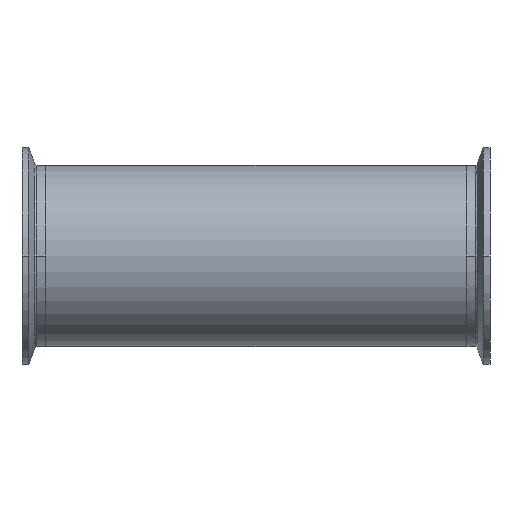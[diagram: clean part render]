
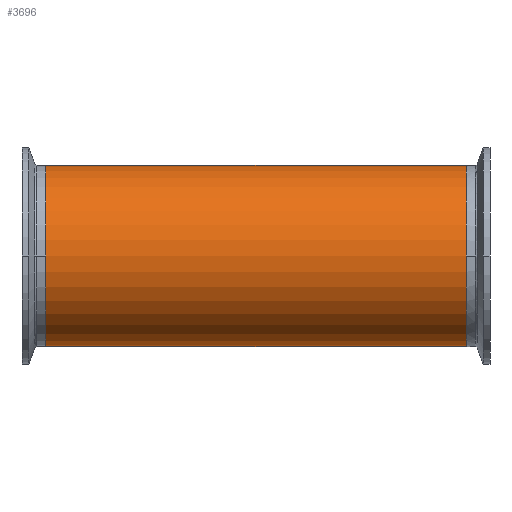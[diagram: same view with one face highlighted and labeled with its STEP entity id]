
A CAD part, front view. The second image highlights one B-rep face of the part: STEP entity #3696.
In plain terms, the highlighted cylindrical face has radius 38.1 mm (diameter 76.2 mm), a partial arc.
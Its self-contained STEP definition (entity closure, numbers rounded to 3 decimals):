
#66 = CIRCLE ( 'NONE', #2106, 38.1 ) ;
#154 = CARTESIAN_POINT ( 'NONE',  ( 196.163, 0., 38.1 ) ) ;
#159 = EDGE_CURVE ( 'NONE', #1480, #3389, #4011, .T. ) ;
#268 = DIRECTION ( 'NONE',  ( 0., 0., 1. ) ) ;
#299 = AXIS2_PLACEMENT_3D ( 'NONE', #1554, #3231, #2902 ) ;
#300 = LINE ( 'NONE', #154, #3678 ) ;
#370 = CYLINDRICAL_SURFACE ( 'NONE', #299, 38.1 ) ;
#473 = EDGE_CURVE ( 'NONE', #2596, #3389, #3748, .T. ) ;
#595 = CARTESIAN_POINT ( 'NONE',  ( -88.4, 0., 0. ) ) ;
#809 = VERTEX_POINT ( 'NONE', #1000 ) ;
#1000 = CARTESIAN_POINT ( 'NONE',  ( 88.4, 0., 38.1 ) ) ;
#1226 = ORIENTED_EDGE ( 'NONE', *, *, #2636, .T. ) ;
#1359 = ORIENTED_EDGE ( 'NONE', *, *, #473, .F. ) ;
#1480 = VERTEX_POINT ( 'NONE', #1669 ) ;
#1554 = CARTESIAN_POINT ( 'NONE',  ( 196.163, 0., 0. ) ) ;
#1592 = DIRECTION ( 'NONE',  ( -1., 0., 0. ) ) ;
#1669 = CARTESIAN_POINT ( 'NONE',  ( -88.4, 0., 38.1 ) ) ;
#1864 = VECTOR ( 'NONE', #3189, 1000. ) ;
#1903 = AXIS2_PLACEMENT_3D ( 'NONE', #595, #2542, #268 ) ;
#2075 = DIRECTION ( 'NONE',  ( -1., 0., 0. ) ) ;
#2106 = AXIS2_PLACEMENT_3D ( 'NONE', #3563, #1592, #3928 ) ;
#2374 = CARTESIAN_POINT ( 'NONE',  ( 88.4, 0., -38.1 ) ) ;
#2542 = DIRECTION ( 'NONE',  ( 1., 0., 0. ) ) ;
#2546 = CARTESIAN_POINT ( 'NONE',  ( -88.4, 0., -38.1 ) ) ;
#2596 = VERTEX_POINT ( 'NONE', #2374 ) ;
#2636 = EDGE_CURVE ( 'NONE', #2596, #809, #66, .T. ) ;
#2902 = DIRECTION ( 'NONE',  ( 0., 0., 1. ) ) ;
#2973 = EDGE_CURVE ( 'NONE', #809, #1480, #300, .T. ) ;
#2978 = FACE_OUTER_BOUND ( 'NONE', #3768, .T. ) ;
#3189 = DIRECTION ( 'NONE',  ( -1., 0., 0. ) ) ;
#3203 = ORIENTED_EDGE ( 'NONE', *, *, #159, .T. ) ;
#3231 = DIRECTION ( 'NONE',  ( -1., 0., 0. ) ) ;
#3389 = VERTEX_POINT ( 'NONE', #2546 ) ;
#3519 = CARTESIAN_POINT ( 'NONE',  ( 196.163, 0., -38.1 ) ) ;
#3563 = CARTESIAN_POINT ( 'NONE',  ( 88.4, 0., 0. ) ) ;
#3678 = VECTOR ( 'NONE', #2075, 1000. ) ;
#3696 = ADVANCED_FACE ( 'NONE', ( #2978 ), #370, .T. ) ;
#3748 = LINE ( 'NONE', #3519, #1864 ) ;
#3768 = EDGE_LOOP ( 'NONE', ( #1359, #1226, #4148, #3203 ) ) ;
#3928 = DIRECTION ( 'NONE',  ( 0., 0., 1. ) ) ;
#4011 = CIRCLE ( 'NONE', #1903, 38.1 ) ;
#4148 = ORIENTED_EDGE ( 'NONE', *, *, #2973, .T. ) ;
